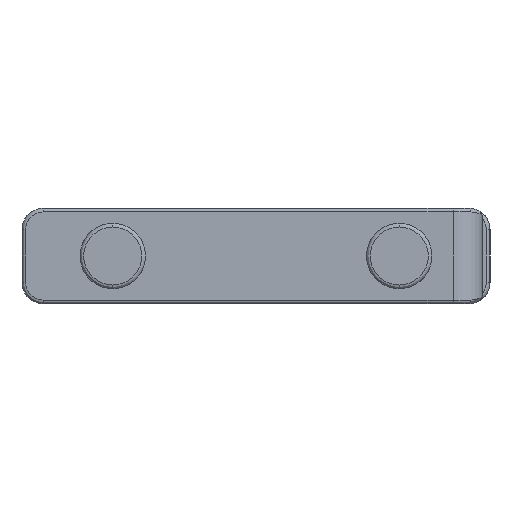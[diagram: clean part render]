
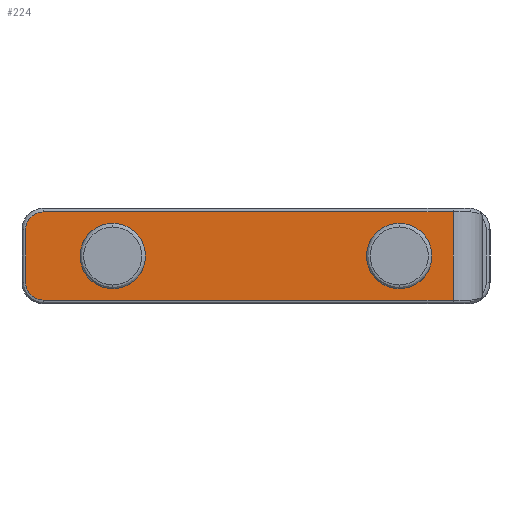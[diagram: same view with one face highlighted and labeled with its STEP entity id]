
A CAD part, left-side view. The second image highlights one B-rep face of the part: STEP entity #224.
In plain terms, the highlighted planar face has unit normal (-1, 0, 0).
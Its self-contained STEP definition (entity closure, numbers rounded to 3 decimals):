
#224 = ADVANCED_FACE ( 'NONE', ( #922, #916, #915 ), #914, .F. ) ;
#225 = EDGE_LOOP ( 'NONE', ( #226, #286 ) ) ;
#226 = ORIENTED_EDGE ( 'NONE', *, *, #285, .F. ) ;
#242 = VERTEX_POINT ( 'NONE', #937 ) ;
#258 = VERTEX_POINT ( 'NONE', #1009 ) ;
#260 = VERTEX_POINT ( 'NONE', #1008 ) ;
#275 = EDGE_CURVE ( 'NONE', #242, #260, #1042, .T. ) ;
#277 = EDGE_CURVE ( 'NONE', #296, #258, #1038, .T. ) ;
#285 = EDGE_CURVE ( 'NONE', #258, #296, #1014, .T. ) ;
#286 = ORIENTED_EDGE ( 'NONE', *, *, #277, .F. ) ;
#287 = EDGE_LOOP ( 'NONE', ( #288, #292, #334, #308, #368, #367 ) ) ;
#288 = ORIENTED_EDGE ( 'NONE', *, *, #289, .F. ) ;
#289 = EDGE_CURVE ( 'NONE', #290, #291, #1075, .T. ) ;
#290 = VERTEX_POINT ( 'NONE', #1071 ) ;
#291 = VERTEX_POINT ( 'NONE', #1070 ) ;
#292 = ORIENTED_EDGE ( 'NONE', *, *, #332, .T. ) ;
#296 = VERTEX_POINT ( 'NONE', #1065 ) ;
#307 = VERTEX_POINT ( 'NONE', #1048 ) ;
#308 = ORIENTED_EDGE ( 'NONE', *, *, #309, .T. ) ;
#309 = EDGE_CURVE ( 'NONE', #336, #307, #1047, .T. ) ;
#332 = EDGE_CURVE ( 'NONE', #290, #333, #1123, .T. ) ;
#333 = VERTEX_POINT ( 'NONE', #1119 ) ;
#334 = ORIENTED_EDGE ( 'NONE', *, *, #335, .T. ) ;
#335 = EDGE_CURVE ( 'NONE', #333, #336, #1118, .T. ) ;
#336 = VERTEX_POINT ( 'NONE', #1113 ) ;
#360 = EDGE_CURVE ( 'NONE', #369, #291, #1189, .T. ) ;
#361 = EDGE_LOOP ( 'NONE', ( #362, #364 ) ) ;
#362 = ORIENTED_EDGE ( 'NONE', *, *, #363, .F. ) ;
#363 = EDGE_CURVE ( 'NONE', #260, #242, #1185, .T. ) ;
#364 = ORIENTED_EDGE ( 'NONE', *, *, #275, .F. ) ;
#366 = EDGE_CURVE ( 'NONE', #307, #369, #1174, .T. ) ;
#367 = ORIENTED_EDGE ( 'NONE', *, *, #360, .T. ) ;
#368 = ORIENTED_EDGE ( 'NONE', *, *, #366, .T. ) ;
#369 = VERTEX_POINT ( 'NONE', #1169 ) ;
#909 = DIRECTION ( 'NONE',  ( 0., 0., -1. ) ) ;
#910 = DIRECTION ( 'NONE',  ( 1., 0., 0. ) ) ;
#911 = CARTESIAN_POINT ( 'NONE',  ( -708.2, -27.9, -2.9 ) ) ;
#912 = AXIS2_PLACEMENT_3D ( 'NONE', #911, #910, #909 ) ;
#914 = PLANE ( 'NONE',  #912 ) ;
#915 = FACE_BOUND ( 'NONE', #361, .T. ) ;
#916 = FACE_OUTER_BOUND ( 'NONE', #287, .T. ) ;
#922 = FACE_BOUND ( 'NONE', #225, .T. ) ;
#937 = CARTESIAN_POINT ( 'NONE',  ( -708.2, -19.5, 4.45 ) ) ;
#981 = CARTESIAN_POINT ( 'NONE',  ( -708.2, -19.5, 0. ) ) ;
#1008 = CARTESIAN_POINT ( 'NONE',  ( -708.2, -19.5, -4.45 ) ) ;
#1009 = CARTESIAN_POINT ( 'NONE',  ( -708.2, 19.5, -4.45 ) ) ;
#1010 = DIRECTION ( 'NONE',  ( 0., 0., -1. ) ) ;
#1011 = DIRECTION ( 'NONE',  ( -1., 0., 0. ) ) ;
#1012 = CARTESIAN_POINT ( 'NONE',  ( -708.2, 19.5, 0. ) ) ;
#1013 = AXIS2_PLACEMENT_3D ( 'NONE', #1012, #1011, #1010 ) ;
#1014 = CIRCLE ( 'NONE', #1013, 4.45 ) ;
#1034 = DIRECTION ( 'NONE',  ( 0., 0., -1. ) ) ;
#1035 = DIRECTION ( 'NONE',  ( -1., 0., 0. ) ) ;
#1036 = CARTESIAN_POINT ( 'NONE',  ( -708.2, 19.5, 0. ) ) ;
#1037 = AXIS2_PLACEMENT_3D ( 'NONE', #1036, #1035, #1034 ) ;
#1038 = CIRCLE ( 'NONE', #1037, 4.45 ) ;
#1039 = DIRECTION ( 'NONE',  ( 0., 0., -1. ) ) ;
#1040 = DIRECTION ( 'NONE',  ( -1., 0., 0. ) ) ;
#1041 = AXIS2_PLACEMENT_3D ( 'NONE', #981, #1040, #1039 ) ;
#1042 = CIRCLE ( 'NONE', #1041, 4.45 ) ;
#1044 = DIRECTION ( 'NONE',  ( 0., 0., -1. ) ) ;
#1045 = VECTOR ( 'NONE', #1044, 1000. ) ;
#1046 = CARTESIAN_POINT ( 'NONE',  ( -708.2, 31.35, -3.6 ) ) ;
#1047 = LINE ( 'NONE', #1046, #1045 ) ;
#1048 = CARTESIAN_POINT ( 'NONE',  ( -708.2, 31.35, -3.6 ) ) ;
#1065 = CARTESIAN_POINT ( 'NONE',  ( -708.2, 19.5, 4.45 ) ) ;
#1070 = CARTESIAN_POINT ( 'NONE',  ( -708.2, -26.82, -6. ) ) ;
#1071 = CARTESIAN_POINT ( 'NONE',  ( -708.2, -26.82, 6. ) ) ;
#1072 = DIRECTION ( 'NONE',  ( 0., 0., -1. ) ) ;
#1073 = VECTOR ( 'NONE', #1072, 1000. ) ;
#1074 = CARTESIAN_POINT ( 'NONE',  ( -708.2, -26.82, -7.5 ) ) ;
#1075 = LINE ( 'NONE', #1074, #1073 ) ;
#1113 = CARTESIAN_POINT ( 'NONE',  ( -708.2, 31.35, 3.6 ) ) ;
#1114 = DIRECTION ( 'NONE',  ( 0., 0., -1. ) ) ;
#1115 = DIRECTION ( 'NONE',  ( -1., 0., 0. ) ) ;
#1116 = CARTESIAN_POINT ( 'NONE',  ( -708.2, 28.95, 3.6 ) ) ;
#1117 = AXIS2_PLACEMENT_3D ( 'NONE', #1116, #1115, #1114 ) ;
#1118 = CIRCLE ( 'NONE', #1117, 2.4 ) ;
#1119 = CARTESIAN_POINT ( 'NONE',  ( -708.2, 28.95, 6. ) ) ;
#1120 = DIRECTION ( 'NONE',  ( 0., 1., 0. ) ) ;
#1121 = VECTOR ( 'NONE', #1120, 1000. ) ;
#1122 = CARTESIAN_POINT ( 'NONE',  ( -708.2, 28.95, 6. ) ) ;
#1123 = LINE ( 'NONE', #1122, #1121 ) ;
#1169 = CARTESIAN_POINT ( 'NONE',  ( -708.2, 28.95, -6. ) ) ;
#1170 = DIRECTION ( 'NONE',  ( 0., 0., -1. ) ) ;
#1171 = DIRECTION ( 'NONE',  ( -1., 0., 0. ) ) ;
#1172 = CARTESIAN_POINT ( 'NONE',  ( -708.2, 28.95, -3.6 ) ) ;
#1173 = AXIS2_PLACEMENT_3D ( 'NONE', #1172, #1171, #1170 ) ;
#1174 = CIRCLE ( 'NONE', #1173, 2.4 ) ;
#1181 = DIRECTION ( 'NONE',  ( 0., 0., -1. ) ) ;
#1182 = DIRECTION ( 'NONE',  ( -1., 0., 0. ) ) ;
#1183 = CARTESIAN_POINT ( 'NONE',  ( -708.2, -19.5, 0. ) ) ;
#1184 = AXIS2_PLACEMENT_3D ( 'NONE', #1183, #1182, #1181 ) ;
#1185 = CIRCLE ( 'NONE', #1184, 4.45 ) ;
#1186 = DIRECTION ( 'NONE',  ( 0., -1., 0. ) ) ;
#1187 = VECTOR ( 'NONE', #1186, 1000. ) ;
#1188 = CARTESIAN_POINT ( 'NONE',  ( -708.2, -26.82, -6. ) ) ;
#1189 = LINE ( 'NONE', #1188, #1187 ) ;
